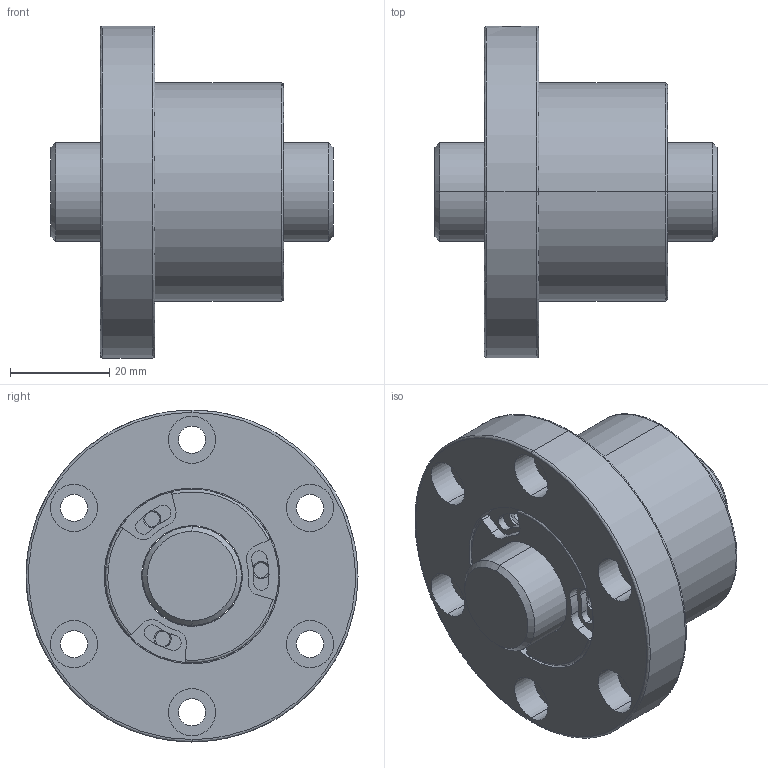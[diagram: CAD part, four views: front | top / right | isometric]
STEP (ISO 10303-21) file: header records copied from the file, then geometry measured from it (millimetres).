
FILE_DESCRIPTION (( 'STEP AP203' ), '1' );
FILE_NAME ('SFVSR02005C1N-C.STEP', '2020-06-17T05:03:29', ( '' ), ( '' ), 'SwSTEP 2.0', 'SolidWorks 2013', '' );
FILE_SCHEMA (( 'CONFIG_CONTROL_DESIGN' ));
Length unit declared in the file: millimetre
Products named in the file (1): SFVSR02005C1N-C
Bounding box: 57 x 67 x 67 mm (x, y, z)
Volume: 77742.8 mm3; surface area: 22885.5 mm2
Topology: 2 solids, 2 shells, 250 faces, 614 edges, 394 vertices
Faces by surface type: cylinder 144, plane 76, cone 16, bspline 14
Entity records: 8188 total; most frequent: CARTESIAN_POINT 1962, DIRECTION 1420, ORIENTED_EDGE 1228, EDGE_CURVE 614, AXIS2_PLACEMENT_3D 607, VERTEX_POINT 394, CIRCLE 370, EDGE_LOOP 294
